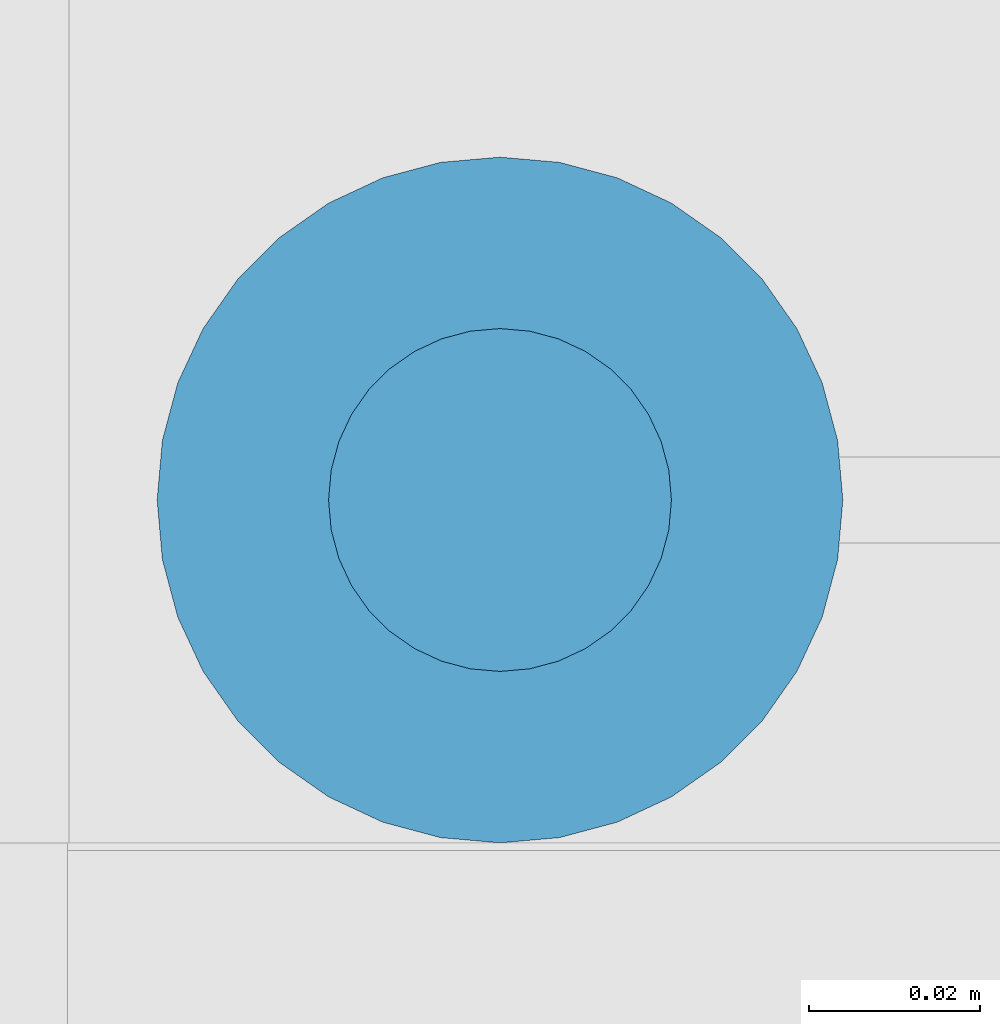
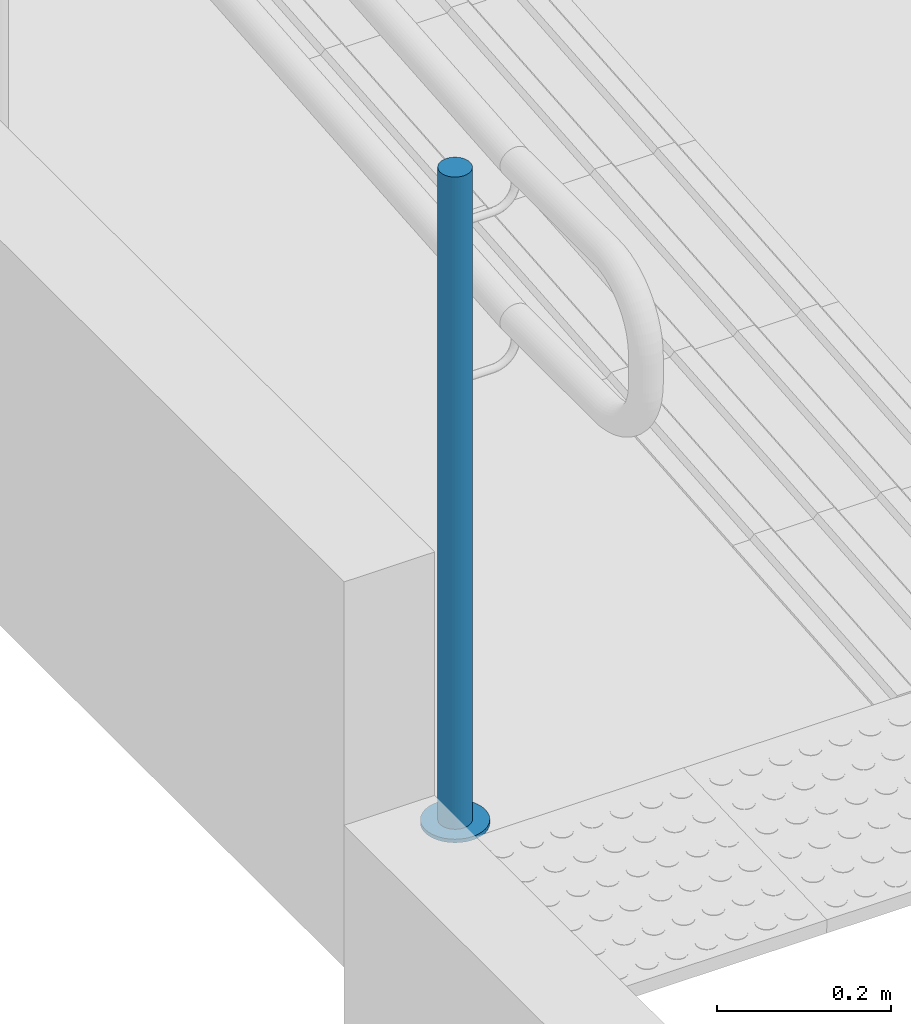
# One storey, part 100 of 237: 2 building element parts, 1 element without a shape of its own.
"""IFC2X3 building model written with IfcOpenShell, lengths in millimetres."""

from ifc_helpers import new_model, entity, si_unit, converted_unit, derived_unit, money_unit, direction, frame, origin_with_axes, place, context, subcontext, project, spatial, faceted_brep, material, type_object, element, aggregate, save


model = new_model("IFC2X3")

# Units and contexts
model_context = context("Model", 3, precision=0.01, world=origin_with_axes(), true_north=direction((0.0, 1.0)))
body_context = subcontext(model_context, "Body", "Model", "MODEL_VIEW")
ifc_project = project(units=[si_unit("LENGTHUNIT", "METRE", prefix="MILLI"), si_unit("AREAUNIT", "SQUARE_METRE"), si_unit("VOLUMEUNIT", "CUBIC_METRE"), converted_unit("PLANEANGLEUNIT", "DEGREE", entity("IfcPlaneAngleMeasure", 0.0174532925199), si_unit("PLANEANGLEUNIT", "RADIAN"), dimensions=[0, 0, 0, 0, 0, 0, 0]), money_unit("USD"), converted_unit("TIMEUNIT", "Year", entity("IfcTimeMeasure", 31556926.0), si_unit("TIMEUNIT", "SECOND"), dimensions=[0, 0, 1, 0, 0, 0, 0]), si_unit("MASSUNIT", "GRAM", prefix="KILO"), si_unit("THERMODYNAMICTEMPERATUREUNIT", "DEGREE_CELSIUS"), si_unit("LUMINOUSINTENSITYUNIT", "LUMEN"), si_unit("ENERGYUNIT", "JOULE", prefix="MEGA"), derived_unit("THERMALCONDUCTANCEUNIT", [(si_unit("POWERUNIT", "WATT"), 1), (si_unit("LENGTHUNIT", "METRE"), -1), (si_unit("THERMODYNAMICTEMPERATUREUNIT", "KELVIN"), -1)]), derived_unit("SPECIFICHEATCAPACITYUNIT", [(si_unit("ENERGYUNIT", "JOULE"), 1), (si_unit("MASSUNIT", "GRAM", prefix="KILO"), -1), (si_unit("THERMODYNAMICTEMPERATUREUNIT", "KELVIN"), -1)]), derived_unit("MASSDENSITYUNIT", [(si_unit("MASSUNIT", "GRAM", prefix="KILO"), 1), (si_unit("VOLUMEUNIT", "CUBIC_METRE"), -1)])], contexts=[model_context])

# Site, building, storey
site_placement = place(None, origin_with_axes())
site = spatial("IfcSite", under=ifc_project, at=site_placement, Name="Local", CompositionType="ELEMENT")
building_placement = place(site_placement, origin_with_axes())
building = spatial("IfcBuilding", under=site, at=building_placement, Name="Construção", CompositionType="ELEMENT")
storey_placement = place(building_placement, origin_with_axes())
storey = spatial("IfcBuildingStorey", under=building, at=storey_placement, Name="Pavimento Térreo", CompositionType="ELEMENT", Elevation=0.0)

# Railing, building element parts
railing_type = type_object("IfcRailingType", Name="Tipo de Guarda-Corpo", PredefinedType="NOTDEFINED")
railing_placement = place(storey_placement, frame((83396.7842051, 16008.4211936, -5267.74663192), z_axis=(0.0, 0.0, 1.0), x_axis=(-0.999999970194, -0.00024415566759, 0.0)))
railing = element("IfcRailing", 1, at=railing_placement, inside=storey, type_object=railing_type, Name="Guarda-Corpo - 001", PredefinedType="NOTDEFINED")
ifc_material_1 = material(Name="Aço - Inoxidável")
building_element_part_1_placement = place(railing_placement, origin_with_axes())
building_element_part_1 = element("IfcBuildingElementPart", 2, at=building_element_part_1_placement, material=ifc_material_1, Name="Aço - Inoxidável", context=body_context, shape_type="Brep", body=[
    faceted_brep([(-19.5291051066, 3173.14122939, 8.33200049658), (-19.2244122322, 3176.61411866, 8.33200049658), (-19.2244122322, 3176.61411866, 923.332000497), (-19.5291051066, 3173.14122939, 923.332000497), (-19.5274092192, 3180.08715629, 8.33200049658), (-20.4322299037, 3169.77401048, 8.33200049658), (-21.9063456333, 3166.61477317, 8.33200049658), (-23.9066620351, 3163.75950928, 8.33200049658), (-26.3724005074, 3161.29497456, 8.33200049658), (-29.2286408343, 3159.29605266, 8.33200049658), (-32.388597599, 3157.82347979, 8.33200049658), (-35.7562571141, 3156.92199935, 8.33200049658), (-39.2292947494, 3156.61900237, 8.33200049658), (-42.7021840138, 3156.92369524, 8.33200049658), (-46.0694029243, 3157.82682004, 8.33200049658), (-49.2286402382, 3159.30093577, 8.33200049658), (-52.0839041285, 3161.30125217, 8.33200049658), (-54.5484388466, 3163.76699064, 8.33200049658), (-56.5473607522, 3166.62323097, 8.33200049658), (-58.0199336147, 3169.78318773, 8.33200049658), (-58.921414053, 3173.15084725, 8.33200049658), (-59.2244110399, 3176.62388488, 8.33200049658), (-58.9197181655, 3180.09677415, 8.33200049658), (-58.0165933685, 3183.46399306, 8.33200049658), (-56.5424776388, 3186.62323037, 8.33200049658), (-54.542161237, 3189.47849426, 8.33200049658), (-52.0764227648, 3191.94302898, 8.33200049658), (-49.2201824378, 3193.94195089, 8.33200049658), (-46.0602256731, 3195.41452375, 8.33200049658), (-42.692566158, 3196.31600419, 8.33200049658), (-39.2195285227, 3196.61900118, 8.33200049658), (-35.7466392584, 3196.3143083, 8.33200049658), (-32.3794203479, 3195.4111835, 8.33200049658), (-29.2201830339, 3193.93706777, 8.33200049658), (-26.3649191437, 3191.93675137, 8.33200049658), (-23.9003844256, 3189.4710129, 8.33200049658), (-21.90146252, 3186.61477257, 8.33200049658), (-20.4288896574, 3183.45481581, 8.33200049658), (-19.5274092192, 3180.08715629, 923.332000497), (-42.7021840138, 3156.92369524, 923.332000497), (-39.2292947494, 3156.61900237, 923.332000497), (-35.7562571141, 3156.92199935, 923.332000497), (-32.388597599, 3157.82347979, 923.332000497), (-29.2286408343, 3159.29605266, 923.332000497), (-26.3724005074, 3161.29497456, 923.332000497), (-23.9066620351, 3163.75950928, 923.332000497), (-21.9063456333, 3166.61477317, 923.332000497), (-20.4322299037, 3169.77401048, 923.332000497), (-20.4288896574, 3183.45481581, 923.332000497), (-21.90146252, 3186.61477257, 923.332000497), (-23.9003844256, 3189.4710129, 923.332000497), (-26.3649191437, 3191.93675137, 923.332000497), (-29.2201830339, 3193.93706777, 923.332000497), (-32.3794203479, 3195.4111835, 923.332000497), (-35.7466392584, 3196.3143083, 923.332000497), (-39.2195285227, 3196.61900118, 923.332000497), (-42.692566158, 3196.31600419, 923.332000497), (-46.0602256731, 3195.41452375, 923.332000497), (-49.2201824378, 3193.94195089, 923.332000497), (-52.0764227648, 3191.94302898, 923.332000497), (-54.542161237, 3189.47849426, 923.332000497), (-56.5424776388, 3186.62323037, 923.332000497), (-58.0165933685, 3183.46399306, 923.332000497), (-58.9197181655, 3180.09677415, 923.332000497), (-59.2244110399, 3176.62388488, 923.332000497), (-58.921414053, 3173.15084725, 923.332000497), (-58.0199336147, 3169.78318773, 923.332000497), (-56.5473607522, 3166.62323097, 923.332000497), (-54.5484388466, 3163.76699064, 923.332000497), (-52.0839041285, 3161.30125217, 923.332000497), (-49.2286402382, 3159.30093577, 923.332000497), (-46.0694029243, 3157.82682004, 923.332000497)], [[[0, 1, 2, 3]], [[4, 1, 0, 5, 6, 7, 8, 9, 10, 11, 12, 13, 14, 15, 16, 17, 18, 19, 20, 21, 22, 23, 24, 25, 26, 27, 28, 29, 30, 31, 32, 33, 34, 35, 36, 37]], [[1, 4, 38, 2]], [[39, 40, 41, 42, 43, 44, 45, 46, 47, 3, 2, 38, 48, 49, 50, 51, 52, 53, 54, 55, 56, 57, 58, 59, 60, 61, 62, 63, 64, 65, 66, 67, 68, 69, 70, 71]], [[5, 0, 3, 47]], [[6, 5, 47, 46]], [[7, 6, 46, 45]], [[8, 7, 45, 44]], [[9, 8, 44, 43]], [[10, 9, 43, 42]], [[11, 10, 42, 41]], [[12, 11, 41, 40]], [[13, 12, 40, 39]], [[14, 13, 39, 71]], [[15, 14, 71, 70]], [[16, 15, 70, 69]], [[17, 16, 69, 68]], [[18, 17, 68, 67]], [[19, 18, 67, 66]], [[20, 19, 66, 65]], [[21, 20, 65, 64]], [[22, 21, 64, 63]], [[23, 22, 63, 62]], [[24, 23, 62, 61]], [[25, 24, 61, 60]], [[26, 25, 60, 59]], [[27, 26, 59, 58]], [[28, 27, 58, 57]], [[29, 28, 57, 56]], [[30, 29, 56, 55]], [[31, 30, 55, 54]], [[32, 31, 54, 53]], [[33, 32, 53, 52]], [[34, 33, 52, 51]], [[35, 34, 51, 50]], [[36, 35, 50, 49]], [[37, 36, 49, 48]], [[4, 37, 48, 38]]]),
])
ifc_material_2 = material(Name="Alumínio")
building_element_part_2_placement = place(railing_placement, origin_with_axes())
building_element_part_2 = element("IfcBuildingElementPart", 3, at=building_element_part_2_placement, material=ifc_material_2, Name="Alumínio", context=body_context, shape_type="Brep", body=[
    faceted_brep([(-39.2146454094, 3216.61900058, 3.33200049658), (-46.1607206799, 3216.01300661, 3.33200049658), (-46.1607206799, 3216.01300661, 8.33200049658), (-39.2146454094, 3216.61900058, 8.33200049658), (-32.2688668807, 3216.00961483, 3.33200049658), (-25.5344290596, 3214.20336524, 3.33200049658), (-19.2159544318, 3211.25513378, 3.33200049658), (-13.5054266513, 3207.25450097, 3.33200049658), (-8.57635721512, 3202.32302403, 3.33200049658), (-4.57851340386, 3196.61054338, 3.33200049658), (-1.63336767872, 3190.29062985, 3.33200049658), (0.169593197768, 3183.55531082, 3.33200049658), (0.775587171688, 3176.60923554, 3.33200049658), (0.166201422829, 3169.66345702, 3.33200049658), (-1.64004817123, 3162.9290192, 3.33200049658), (-4.58827963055, 3156.61054457, 3.33200049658), (-8.58891243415, 3150.90001679, 3.33200049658), (-13.5203893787, 3145.97094735, 3.33200049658), (-19.2328700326, 3141.97310354, 3.33200049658), (-25.552783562, 3139.02795781, 3.33200049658), (-32.2881025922, 3137.22499694, 3.33200049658), (-39.2341778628, 3136.61900296, 3.33200049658), (-46.1799563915, 3137.22838871, 3.33200049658), (-52.9143942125, 3139.03463831, 3.33200049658), (-59.2328688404, 3141.98286977, 3.33200049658), (-64.9433966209, 3145.98350257, 3.33200049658), (-69.872466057, 3150.91497951, 3.33200049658), (-73.8703098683, 3156.62746017, 3.33200049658), (-76.8154555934, 3162.9473737, 3.33200049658), (-78.6184164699, 3169.68269273, 3.33200049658), (-79.2244104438, 3176.628768, 3.33200049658), (-78.615024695, 3183.57454653, 3.33200049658), (-76.8087751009, 3190.30898435, 3.33200049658), (-73.8605436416, 3196.62745898, 3.33200049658), (-69.859910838, 3202.33798676, 3.33200049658), (-64.9284338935, 3207.26705619, 3.33200049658), (-59.2159532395, 3211.2649, 3.33200049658), (-52.8960397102, 3214.21004573, 3.33200049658), (-52.8960397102, 3214.21004573, 8.33200049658), (-59.2159532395, 3211.2649, 8.33200049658), (-64.9284338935, 3207.26705619, 8.33200049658), (-69.859910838, 3202.33798676, 8.33200049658), (-73.8605436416, 3196.62745898, 8.33200049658), (-76.8087751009, 3190.30898435, 8.33200049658), (-78.615024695, 3183.57454653, 8.33200049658), (-79.2244104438, 3176.628768, 8.33200049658), (-78.6184164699, 3169.68269273, 8.33200049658), (-76.8154555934, 3162.9473737, 8.33200049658), (-73.8703098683, 3156.62746017, 8.33200049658), (-69.872466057, 3150.91497951, 8.33200049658), (-64.9433966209, 3145.98350257, 8.33200049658), (-59.2328688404, 3141.98286977, 8.33200049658), (-52.9143942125, 3139.03463831, 8.33200049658), (-46.1799563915, 3137.22838871, 8.33200049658), (-39.2341778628, 3136.61900296, 8.33200049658), (-32.2881025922, 3137.22499694, 8.33200049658), (-25.552783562, 3139.02795781, 8.33200049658), (-19.2328700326, 3141.97310354, 8.33200049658), (-13.5203893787, 3145.97094735, 8.33200049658), (-8.58891243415, 3150.90001679, 8.33200049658), (-4.58827963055, 3156.61054457, 8.33200049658), (-1.64004817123, 3162.9290192, 8.33200049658), (0.166201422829, 3169.66345702, 8.33200049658), (0.775587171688, 3176.60923554, 8.33200049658), (0.169593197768, 3183.55531082, 8.33200049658), (-1.63336767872, 3190.29062985, 8.33200049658), (-4.57851340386, 3196.61054338, 8.33200049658), (-8.57635721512, 3202.32302403, 8.33200049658), (-13.5054266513, 3207.25450097, 8.33200049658), (-19.2159544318, 3211.25513378, 8.33200049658), (-25.5344290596, 3214.20336524, 8.33200049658), (-32.2688668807, 3216.00961483, 8.33200049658)], [[[0, 1, 2, 3]], [[0, 4, 5, 6, 7, 8, 9, 10, 11, 12, 13, 14, 15, 16, 17, 18, 19, 20, 21, 22, 23, 24, 25, 26, 27, 28, 29, 30, 31, 32, 33, 34, 35, 36, 37, 1]], [[1, 37, 38, 2]], [[3, 2, 38, 39, 40, 41, 42, 43, 44, 45, 46, 47, 48, 49, 50, 51, 52, 53, 54, 55, 56, 57, 58, 59, 60, 61, 62, 63, 64, 65, 66, 67, 68, 69, 70, 71]], [[4, 0, 3, 71]], [[5, 4, 71, 70]], [[6, 5, 70, 69]], [[7, 6, 69, 68]], [[8, 7, 68, 67]], [[9, 8, 67, 66]], [[10, 9, 66, 65]], [[11, 10, 65, 64]], [[12, 11, 64, 63]], [[13, 12, 63, 62]], [[14, 13, 62, 61]], [[15, 14, 61, 60]], [[16, 15, 60, 59]], [[17, 16, 59, 58]], [[18, 17, 58, 57]], [[19, 18, 57, 56]], [[20, 19, 56, 55]], [[21, 20, 55, 54]], [[22, 21, 54, 53]], [[23, 22, 53, 52]], [[24, 23, 52, 51]], [[25, 24, 51, 50]], [[26, 25, 50, 49]], [[27, 26, 49, 48]], [[28, 27, 48, 47]], [[29, 28, 47, 46]], [[30, 29, 46, 45]], [[31, 30, 45, 44]], [[32, 31, 44, 43]], [[33, 32, 43, 42]], [[34, 33, 42, 41]], [[35, 34, 41, 40]], [[36, 35, 40, 39]], [[37, 36, 39, 38]]]),
])
aggregate(railing, [building_element_part_1, building_element_part_2])

save(model, "model.ifc")
